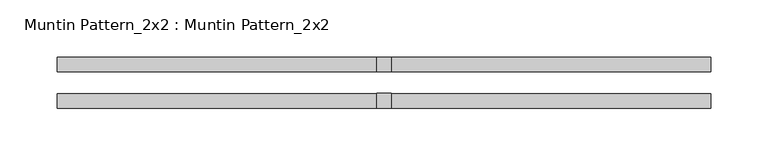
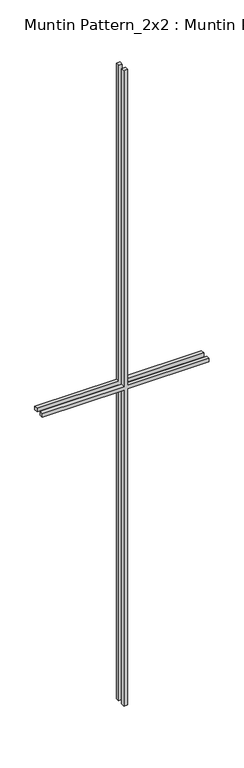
"""IFC4 building model written with IfcOpenShell, lengths in millimetres: proxy geometry, Muntin Pattern_2x2 : Muntin Pattern_2x2."""

from ifc_helpers import new_model, si_unit, frame, origin, place, context, project, spatial, polyline, outline, extrude, source, transform, mapped, element, save


def muntin_pattern_2x2_muntin_pattern_2x2_40bd0332(model_context):
    return source(origin(), model_context, "Body", "SweptSolid", [
        extrude(outline(polyline([(1155.7, -6.35), (1155.7, -285.75), (1143.0, -285.75), (1143.0, -6.35), (0.0, -6.35), (0.0, 6.35), (1143.0, 6.35), (1143.0, 285.75), (1155.7, 285.75), (1155.7, 6.35), (2298.7, 6.35), (2298.7, -6.35), (1155.7, -6.35)])), frame((0.0, -22.225, 0.0), z_axis=(0.0, 1.0, 0.0), x_axis=(0.0, 0.0, 1.0)), (0.0, 0.0, 1.0), 12.7),
        extrude(outline(polyline([(1155.7, -6.35), (1155.7, -285.75), (1143.0, -285.75), (1143.0, -6.35), (0.0, -6.35), (0.0, 6.35), (1143.0, 6.35), (1143.0, 285.75), (1155.7, 285.75), (1155.7, 6.35), (2298.7, 6.35), (2298.7, -6.35), (1155.7, -6.35)])), frame((0.0, 9.525, 0.0), z_axis=(0.0, 1.0, 0.0), x_axis=(0.0, 0.0, 1.0)), (0.0, 0.0, 1.0), 12.7),
    ])


if __name__ == "__main__":
    model = new_model("IFC4")
    model_context = context("Model", 3, world=origin())
    ifc_project = project(units=[si_unit("LENGTHUNIT", "METRE", prefix="MILLI")], contexts=[model_context])
    site = spatial("IfcSite", under=ifc_project)
    building = spatial("IfcBuilding", under=site)
    placement = place(None, origin())
    muntin_pattern_2x2_muntin_pattern_2x2_shape = muntin_pattern_2x2_muntin_pattern_2x2_40bd0332(model_context)
    element("IfcBuildingElementProxy", 1, Name="Muntin Pattern_2x2 : Muntin Pattern_2x2", ObjectType="Muntin Pattern_2x2 : Muntin Pattern_2x2", at=placement, inside=building, context=model_context, shape_type="MappedRepresentation", body=[
        mapped(muntin_pattern_2x2_muntin_pattern_2x2_shape, transform((0.0, 0.0, 0.0), x_axis=(1.0, 0.0, 0.0), y_axis=(0.0, 1.0, 0.0), z_axis=(0.0, 0.0, 1.0))),
    ])
    save(model, "model.ifc")
